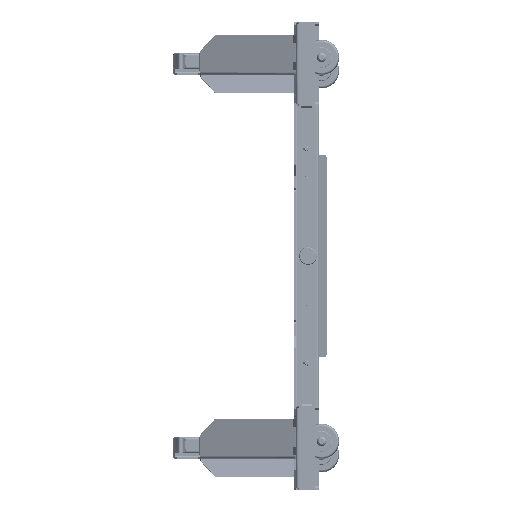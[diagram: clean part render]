
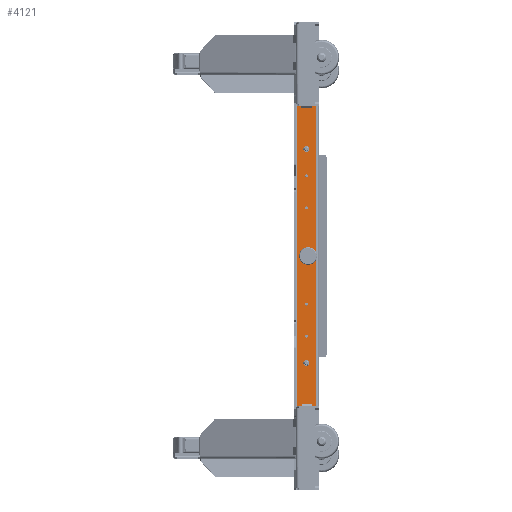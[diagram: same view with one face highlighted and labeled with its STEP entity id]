
A CAD part, left-side view. The second image highlights one B-rep face of the part: STEP entity #4121.
In plain terms, the highlighted planar face has unit normal (-1, 0, 0) as drawn and (0, 0, 1) by its records, which use the part's own axes.
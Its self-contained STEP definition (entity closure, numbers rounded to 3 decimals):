
#1834=DIRECTION('',(1.,0.,0.));
#1835=VECTOR('',#1834,675.);
#1836=CARTESIAN_POINT('',(-337.5,5.1,0.));
#1837=LINE('',#1836,#1835);
#2194=DIRECTION('',(-0.707,-0.707,0.));
#2195=VECTOR('',#2194,4.243);
#2196=CARTESIAN_POINT('',(437.5,8.1,0.));
#2197=LINE('',#2196,#2195);
#2198=DIRECTION('',(-1.,0.,0.));
#2199=VECTOR('',#2198,97.);
#2200=CARTESIAN_POINT('',(-337.5,5.1,0.));
#2201=LINE('',#2200,#2199);
#2202=DIRECTION('',(-0.707,0.707,0.));
#2203=VECTOR('',#2202,4.243);
#2204=CARTESIAN_POINT('',(-434.5,5.1,0.));
#2205=LINE('',#2204,#2203);
#2206=DIRECTION('',(0.,1.,0.));
#2207=VECTOR('',#2206,32.8);
#2208=CARTESIAN_POINT('',(-437.5,8.1,0.));
#2209=LINE('',#2208,#2207);
#2210=CARTESIAN_POINT('',(200.,23.24,0.));
#2211=DIRECTION('',(0.,0.,1.));
#2212=DIRECTION('',(-1.,0.,0.));
#2213=AXIS2_PLACEMENT_3D('',#2210,#2211,#2212);
#2215=CARTESIAN_POINT('',(200.,23.24,0.));
#2216=DIRECTION('',(0.,0.,1.));
#2217=DIRECTION('',(1.,0.,0.));
#2218=AXIS2_PLACEMENT_3D('',#2215,#2216,#2217);
#2220=CARTESIAN_POINT('',(0.,20.24,0.));
#2221=DIRECTION('',(0.,0.,1.));
#2222=DIRECTION('',(-1.,0.,0.));
#2223=AXIS2_PLACEMENT_3D('',#2220,#2221,#2222);
#2225=CARTESIAN_POINT('',(0.,20.24,0.));
#2226=DIRECTION('',(0.,0.,1.));
#2227=DIRECTION('',(1.,0.,0.));
#2228=AXIS2_PLACEMENT_3D('',#2225,#2226,#2227);
#2230=CARTESIAN_POINT('',(150.,23.,0.));
#2231=DIRECTION('',(0.,0.,1.));
#2232=DIRECTION('',(-1.,0.,0.));
#2233=AXIS2_PLACEMENT_3D('',#2230,#2231,#2232);
#2235=CARTESIAN_POINT('',(150.,23.,0.));
#2236=DIRECTION('',(0.,0.,1.));
#2237=DIRECTION('',(1.,0.,0.));
#2238=AXIS2_PLACEMENT_3D('',#2235,#2236,#2237);
#2240=CARTESIAN_POINT('',(90.,23.,0.));
#2241=DIRECTION('',(0.,0.,1.));
#2242=DIRECTION('',(-1.,0.,0.));
#2243=AXIS2_PLACEMENT_3D('',#2240,#2241,#2242);
#2245=CARTESIAN_POINT('',(90.,23.,0.));
#2246=DIRECTION('',(0.,0.,1.));
#2247=DIRECTION('',(1.,0.,0.));
#2248=AXIS2_PLACEMENT_3D('',#2245,#2246,#2247);
#2250=CARTESIAN_POINT('',(320.,23.,0.));
#2251=DIRECTION('',(0.,0.,1.));
#2252=DIRECTION('',(-1.,0.,0.));
#2253=AXIS2_PLACEMENT_3D('',#2250,#2251,#2252);
#2255=CARTESIAN_POINT('',(320.,23.,0.));
#2256=DIRECTION('',(0.,0.,1.));
#2257=DIRECTION('',(1.,0.,0.));
#2258=AXIS2_PLACEMENT_3D('',#2255,#2256,#2257);
#2260=CARTESIAN_POINT('',(380.,23.,0.));
#2261=DIRECTION('',(0.,0.,1.));
#2262=DIRECTION('',(-1.,0.,0.));
#2263=AXIS2_PLACEMENT_3D('',#2260,#2261,#2262);
#2265=CARTESIAN_POINT('',(380.,23.,0.));
#2266=DIRECTION('',(0.,0.,1.));
#2267=DIRECTION('',(1.,0.,0.));
#2268=AXIS2_PLACEMENT_3D('',#2265,#2266,#2267);
#2270=CARTESIAN_POINT('',(-150.,23.,0.));
#2271=DIRECTION('',(0.,0.,1.));
#2272=DIRECTION('',(-1.,0.,0.));
#2273=AXIS2_PLACEMENT_3D('',#2270,#2271,#2272);
#2275=CARTESIAN_POINT('',(-150.,23.,0.));
#2276=DIRECTION('',(0.,0.,1.));
#2277=DIRECTION('',(1.,0.,0.));
#2278=AXIS2_PLACEMENT_3D('',#2275,#2276,#2277);
#2280=CARTESIAN_POINT('',(-90.,23.,0.));
#2281=DIRECTION('',(0.,0.,1.));
#2282=DIRECTION('',(-1.,0.,0.));
#2283=AXIS2_PLACEMENT_3D('',#2280,#2281,#2282);
#2285=CARTESIAN_POINT('',(-90.,23.,0.));
#2286=DIRECTION('',(0.,0.,1.));
#2287=DIRECTION('',(1.,0.,0.));
#2288=AXIS2_PLACEMENT_3D('',#2285,#2286,#2287);
#2290=CARTESIAN_POINT('',(-320.,23.,0.));
#2291=DIRECTION('',(0.,0.,1.));
#2292=DIRECTION('',(-1.,0.,0.));
#2293=AXIS2_PLACEMENT_3D('',#2290,#2291,#2292);
#2295=CARTESIAN_POINT('',(-320.,23.,0.));
#2296=DIRECTION('',(0.,0.,1.));
#2297=DIRECTION('',(1.,0.,0.));
#2298=AXIS2_PLACEMENT_3D('',#2295,#2296,#2297);
#2300=CARTESIAN_POINT('',(-380.,23.,0.));
#2301=DIRECTION('',(0.,0.,1.));
#2302=DIRECTION('',(-1.,0.,0.));
#2303=AXIS2_PLACEMENT_3D('',#2300,#2301,#2302);
#2305=CARTESIAN_POINT('',(-380.,23.,0.));
#2306=DIRECTION('',(0.,0.,1.));
#2307=DIRECTION('',(1.,0.,0.));
#2308=AXIS2_PLACEMENT_3D('',#2305,#2306,#2307);
#2310=CARTESIAN_POINT('',(-200.,23.24,0.));
#2311=DIRECTION('',(0.,0.,1.));
#2312=DIRECTION('',(-1.,0.,0.));
#2313=AXIS2_PLACEMENT_3D('',#2310,#2311,#2312);
#2315=CARTESIAN_POINT('',(-200.,23.24,0.));
#2316=DIRECTION('',(0.,0.,1.));
#2317=DIRECTION('',(1.,0.,0.));
#2318=AXIS2_PLACEMENT_3D('',#2315,#2316,#2317);
#2328=DIRECTION('',(1.,0.,0.));
#2329=VECTOR('',#2328,97.);
#2330=CARTESIAN_POINT('',(337.5,5.1,0.));
#2331=LINE('',#2330,#2329);
#2776=DIRECTION('',(0.,1.,0.));
#2777=VECTOR('',#2776,32.8);
#2778=CARTESIAN_POINT('',(437.5,8.1,0.));
#2779=LINE('',#2778,#2777);
#2788=DIRECTION('',(-1.,0.,0.));
#2789=VECTOR('',#2788,875.);
#2790=CARTESIAN_POINT('',(437.5,40.9,0.));
#2791=LINE('',#2790,#2789);
#3028=CARTESIAN_POINT('',(337.5,5.1,0.));
#3029=VERTEX_POINT('',#3028);
#3032=CARTESIAN_POINT('',(-337.5,5.1,0.));
#3033=VERTEX_POINT('',#3032);
#3120=CARTESIAN_POINT('',(-194.5,23.24,0.));
#3121=CARTESIAN_POINT('',(-205.5,23.24,0.));
#3122=VERTEX_POINT('',#3120);
#3123=VERTEX_POINT('',#3121);
#3124=CARTESIAN_POINT('',(437.5,8.1,0.));
#3125=CARTESIAN_POINT('',(434.5,5.1,0.));
#3126=VERTEX_POINT('',#3124);
#3127=VERTEX_POINT('',#3125);
#3128=CARTESIAN_POINT('',(-434.5,5.1,0.));
#3129=VERTEX_POINT('',#3128);
#3130=CARTESIAN_POINT('',(-437.5,8.1,0.));
#3131=VERTEX_POINT('',#3130);
#3132=CARTESIAN_POINT('',(-437.5,40.9,0.));
#3133=VERTEX_POINT('',#3132);
#3134=CARTESIAN_POINT('',(437.5,40.9,0.));
#3135=VERTEX_POINT('',#3134);
#3136=CARTESIAN_POINT('',(194.5,23.24,0.));
#3137=CARTESIAN_POINT('',(205.5,23.24,0.));
#3138=VERTEX_POINT('',#3136);
#3139=VERTEX_POINT('',#3137);
#3140=CARTESIAN_POINT('',(-8.1,20.24,0.));
#3141=CARTESIAN_POINT('',(8.1,20.24,0.));
#3142=VERTEX_POINT('',#3140);
#3143=VERTEX_POINT('',#3141);
#3144=CARTESIAN_POINT('',(147.25,23.,0.));
#3145=CARTESIAN_POINT('',(152.75,23.,0.));
#3146=VERTEX_POINT('',#3144);
#3147=VERTEX_POINT('',#3145);
#3148=CARTESIAN_POINT('',(87.25,23.,0.));
#3149=CARTESIAN_POINT('',(92.75,23.,0.));
#3150=VERTEX_POINT('',#3148);
#3151=VERTEX_POINT('',#3149);
#3152=CARTESIAN_POINT('',(317.25,23.,0.));
#3153=CARTESIAN_POINT('',(322.75,23.,0.));
#3154=VERTEX_POINT('',#3152);
#3155=VERTEX_POINT('',#3153);
#3156=CARTESIAN_POINT('',(377.25,23.,0.));
#3157=CARTESIAN_POINT('',(382.75,23.,0.));
#3158=VERTEX_POINT('',#3156);
#3159=VERTEX_POINT('',#3157);
#3160=CARTESIAN_POINT('',(-152.75,23.,0.));
#3161=CARTESIAN_POINT('',(-147.25,23.,0.));
#3162=VERTEX_POINT('',#3160);
#3163=VERTEX_POINT('',#3161);
#3164=CARTESIAN_POINT('',(-92.75,23.,0.));
#3165=CARTESIAN_POINT('',(-87.25,23.,0.));
#3166=VERTEX_POINT('',#3164);
#3167=VERTEX_POINT('',#3165);
#3168=CARTESIAN_POINT('',(-322.75,23.,0.));
#3169=CARTESIAN_POINT('',(-317.25,23.,0.));
#3170=VERTEX_POINT('',#3168);
#3171=VERTEX_POINT('',#3169);
#3172=CARTESIAN_POINT('',(-382.75,23.,0.));
#3173=CARTESIAN_POINT('',(-377.25,23.,0.));
#3174=VERTEX_POINT('',#3172);
#3175=VERTEX_POINT('',#3173);
#4034=CARTESIAN_POINT('',(-437.5,46.,0.));
#4035=DIRECTION('',(0.,0.,1.));
#4036=DIRECTION('',(0.,-1.,0.));
#4037=AXIS2_PLACEMENT_3D('',#4034,#4035,#4036);
#4038=PLANE('',#4037);
#4039=ORIENTED_EDGE('',*,*,#4024,.T.);
#4041=ORIENTED_EDGE('',*,*,#4040,.F.);
#4042=ORIENTED_EDGE('',*,*,#3529,.F.);
#4044=ORIENTED_EDGE('',*,*,#4043,.T.);
#4046=ORIENTED_EDGE('',*,*,#4045,.T.);
#4048=ORIENTED_EDGE('',*,*,#4047,.T.);
#4050=ORIENTED_EDGE('',*,*,#4049,.F.);
#4052=ORIENTED_EDGE('',*,*,#4051,.F.);
#4053=EDGE_LOOP('',(#4039,#4041,#4042,#4044,#4046,#4048,#4050,#4052));
#4054=FACE_OUTER_BOUND('',#4053,.F.);
#4056=ORIENTED_EDGE('',*,*,#4055,.T.);
#4058=ORIENTED_EDGE('',*,*,#4057,.T.);
#4059=EDGE_LOOP('',(#4056,#4058));
#4060=FACE_BOUND('',#4059,.F.);
#4062=ORIENTED_EDGE('',*,*,#4061,.T.);
#4064=ORIENTED_EDGE('',*,*,#4063,.T.);
#4065=EDGE_LOOP('',(#4062,#4064));
#4066=FACE_BOUND('',#4065,.F.);
#4068=ORIENTED_EDGE('',*,*,#4067,.T.);
#4070=ORIENTED_EDGE('',*,*,#4069,.T.);
#4071=EDGE_LOOP('',(#4068,#4070));
#4072=FACE_BOUND('',#4071,.F.);
#4074=ORIENTED_EDGE('',*,*,#4073,.T.);
#4076=ORIENTED_EDGE('',*,*,#4075,.T.);
#4077=EDGE_LOOP('',(#4074,#4076));
#4078=FACE_BOUND('',#4077,.F.);
#4080=ORIENTED_EDGE('',*,*,#4079,.T.);
#4082=ORIENTED_EDGE('',*,*,#4081,.T.);
#4083=EDGE_LOOP('',(#4080,#4082));
#4084=FACE_BOUND('',#4083,.F.);
#4086=ORIENTED_EDGE('',*,*,#4085,.T.);
#4088=ORIENTED_EDGE('',*,*,#4087,.T.);
#4089=EDGE_LOOP('',(#4086,#4088));
#4090=FACE_BOUND('',#4089,.F.);
#4092=ORIENTED_EDGE('',*,*,#4091,.T.);
#4094=ORIENTED_EDGE('',*,*,#4093,.T.);
#4095=EDGE_LOOP('',(#4092,#4094));
#4096=FACE_BOUND('',#4095,.F.);
#4098=ORIENTED_EDGE('',*,*,#4097,.T.);
#4100=ORIENTED_EDGE('',*,*,#4099,.T.);
#4101=EDGE_LOOP('',(#4098,#4100));
#4102=FACE_BOUND('',#4101,.F.);
#4104=ORIENTED_EDGE('',*,*,#4103,.T.);
#4106=ORIENTED_EDGE('',*,*,#4105,.T.);
#4107=EDGE_LOOP('',(#4104,#4106));
#4108=FACE_BOUND('',#4107,.F.);
#4110=ORIENTED_EDGE('',*,*,#4109,.T.);
#4112=ORIENTED_EDGE('',*,*,#4111,.T.);
#4113=EDGE_LOOP('',(#4110,#4112));
#4114=FACE_BOUND('',#4113,.F.);
#4116=ORIENTED_EDGE('',*,*,#4115,.T.);
#4118=ORIENTED_EDGE('',*,*,#4117,.T.);
#4119=EDGE_LOOP('',(#4116,#4118));
#4120=FACE_BOUND('',#4119,.F.);
#4121=ADVANCED_FACE('',(#4054,#4060,#4066,#4072,#4078,#4084,#4090,#4096,#4102,
#4108,#4114,#4120),#4038,.T.);
#2214=CIRCLE('',#2213,5.5);
#2219=CIRCLE('',#2218,5.5);
#2224=CIRCLE('',#2223,8.1);
#2229=CIRCLE('',#2228,8.1);
#2234=CIRCLE('',#2233,2.75);
#2239=CIRCLE('',#2238,2.75);
#2244=CIRCLE('',#2243,2.75);
#2249=CIRCLE('',#2248,2.75);
#2254=CIRCLE('',#2253,2.75);
#2259=CIRCLE('',#2258,2.75);
#2264=CIRCLE('',#2263,2.75);
#2269=CIRCLE('',#2268,2.75);
#2274=CIRCLE('',#2273,2.75);
#2279=CIRCLE('',#2278,2.75);
#2284=CIRCLE('',#2283,2.75);
#2289=CIRCLE('',#2288,2.75);
#2294=CIRCLE('',#2293,2.75);
#2299=CIRCLE('',#2298,2.75);
#2304=CIRCLE('',#2303,2.75);
#2309=CIRCLE('',#2308,2.75);
#2314=CIRCLE('',#2313,5.5);
#2319=CIRCLE('',#2318,5.5);
#3529=EDGE_CURVE('',#3033,#3029,#1837,.T.);
#4024=EDGE_CURVE('',#3126,#3127,#2197,.T.);
#4040=EDGE_CURVE('',#3029,#3127,#2331,.T.);
#4043=EDGE_CURVE('',#3033,#3129,#2201,.T.);
#4045=EDGE_CURVE('',#3129,#3131,#2205,.T.);
#4047=EDGE_CURVE('',#3131,#3133,#2209,.T.);
#4049=EDGE_CURVE('',#3135,#3133,#2791,.T.);
#4051=EDGE_CURVE('',#3126,#3135,#2779,.T.);
#4055=EDGE_CURVE('',#3138,#3139,#2214,.T.);
#4057=EDGE_CURVE('',#3139,#3138,#2219,.T.);
#4061=EDGE_CURVE('',#3142,#3143,#2224,.T.);
#4063=EDGE_CURVE('',#3143,#3142,#2229,.T.);
#4067=EDGE_CURVE('',#3146,#3147,#2234,.T.);
#4069=EDGE_CURVE('',#3147,#3146,#2239,.T.);
#4073=EDGE_CURVE('',#3150,#3151,#2244,.T.);
#4075=EDGE_CURVE('',#3151,#3150,#2249,.T.);
#4079=EDGE_CURVE('',#3154,#3155,#2254,.T.);
#4081=EDGE_CURVE('',#3155,#3154,#2259,.T.);
#4085=EDGE_CURVE('',#3158,#3159,#2264,.T.);
#4087=EDGE_CURVE('',#3159,#3158,#2269,.T.);
#4091=EDGE_CURVE('',#3162,#3163,#2274,.T.);
#4093=EDGE_CURVE('',#3163,#3162,#2279,.T.);
#4097=EDGE_CURVE('',#3166,#3167,#2284,.T.);
#4099=EDGE_CURVE('',#3167,#3166,#2289,.T.);
#4103=EDGE_CURVE('',#3170,#3171,#2294,.T.);
#4105=EDGE_CURVE('',#3171,#3170,#2299,.T.);
#4109=EDGE_CURVE('',#3174,#3175,#2304,.T.);
#4111=EDGE_CURVE('',#3175,#3174,#2309,.T.);
#4115=EDGE_CURVE('',#3123,#3122,#2314,.T.);
#4117=EDGE_CURVE('',#3122,#3123,#2319,.T.);
